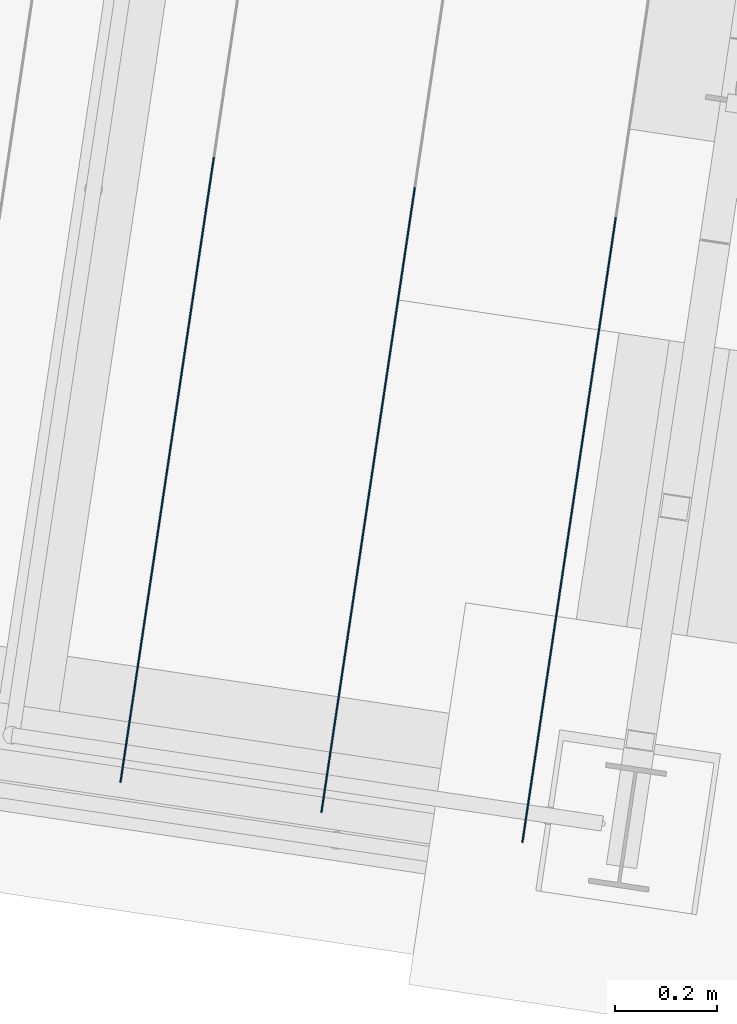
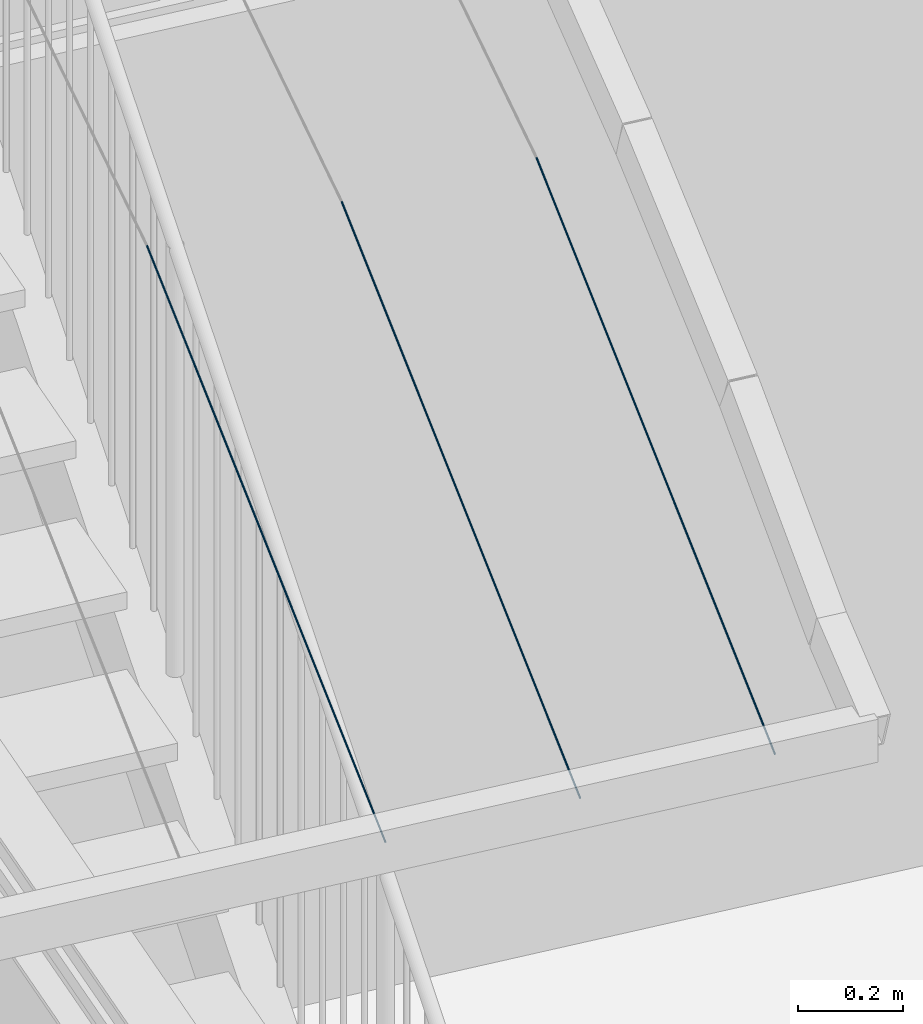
# One storey, part 18 of 142: 3 members, 1 element without a shape of its own.
"""IFC4 building model written with IfcOpenShell, lengths in metres."""

import ifcopenshell
import ifcopenshell.guid

model = None  # the IFC model being written
_history = None  # IfcOwnerHistory: only IFC2X3 demands one
_inside = {}  # id of a spatial element -> (the spatial element, [elements in it])
_under = {}  # id of a project, library or spatial element -> (it, [spatial elements below it])
_declared = {}  # id of a project -> (the project, [libraries it declares])
_typed = {}  # id of a type object -> (the type object, [elements of that type])
_made_of = {}  # id of a material, layer set ... -> (it, [elements and type objects made of it])


def new_model(schema):
    """Start an empty IFC model of exactly this schema.

    Asked for "IFC4X3", IfcOpenShell would pick the latest addendum, in which some entities
    have other attributes; the version numbers below select the first issue.
    IFC2X3 requires an IfcOwnerHistory on every rooted entity: one is made here for all.
    """
    global model, _history
    if schema == "IFC4X3":
        model = ifcopenshell.file(schema_version=(4, 3, 0, 0))
    else:
        model = ifcopenshell.file(schema=schema)
    _inside.clear()
    _under.clear()
    _declared.clear()
    _typed.clear()
    _made_of.clear()
    _history = None
    if model.schema == "IFC2X3":
        org = make("IfcOrganization", Name="unknown")
        user = make(
            "IfcPersonAndOrganization",
            ThePerson=make("IfcPerson", FamilyName="unknown"),
            TheOrganization=org,
        )
        app = make(
            "IfcApplication",
            ApplicationDeveloper=org,
            Version="unknown",
            ApplicationFullName="unknown",
            ApplicationIdentifier="unknown",
        )
        _history = make(
            "IfcOwnerHistory",
            OwningUser=user,
            OwningApplication=app,
            ChangeAction="ADDED",
            CreationDate=0,
        )
    return model


def make(cls, **values):
    """One entity of the class cls with the attributes given. An attribute that is None is left unset."""
    return model.create_entity(
        cls, **{name: value for name, value in values.items() if value is not None}
    )


def rooted(cls, **values):
    """An entity with a GlobalId (a new one), such as an element, a storey or a relation."""
    return make(cls, GlobalId=ifcopenshell.guid.new(), OwnerHistory=_history, **values)


def si_unit(unit_type, name, prefix=None):
    """IfcSIUnit, for example si_unit("LENGTHUNIT", "METRE", prefix="MILLI")."""
    return make("IfcSIUnit", UnitType=unit_type, Prefix=prefix, Name=name)


def assignment(units):
    """IfcUnitAssignment: the units of a project."""
    return None if units is None else make("IfcUnitAssignment", Units=units)


def point(xyz):
    """IfcCartesianPoint."""
    return None if xyz is None else make("IfcCartesianPoint", Coordinates=xyz)


def direction(xyz):
    """IfcDirection."""
    return None if xyz is None else make("IfcDirection", DirectionRatios=xyz)


def frame(location, z_axis=None, x_axis=None):
    """IfcAxis2Placement3D, a coordinate frame: its origin and axes. An axis left out is left unset."""
    return make(
        "IfcAxis2Placement3D",
        Location=point(location),
        Axis=direction(z_axis),
        RefDirection=direction(x_axis),
    )


def origin_with_axes():
    """The frame at (0, 0, 0) with the z axis (0, 0, 1) and the x axis (1, 0, 0) written out."""
    return frame((0.0, 0.0, 0.0), z_axis=(0.0, 0.0, 1.0), x_axis=(1.0, 0.0, 0.0))


def place(relative_to, where):
    """IfcLocalPlacement: puts the frame where relative to a parent placement (None: the world)."""
    return make(
        "IfcLocalPlacement", PlacementRelTo=relative_to, RelativePlacement=where
    )


def context(
    kind, dimensions, precision=None, world=None, true_north=None, identifier=None
):
    """IfcGeometricRepresentationContext, for example the 3D "Model" context."""
    return make(
        "IfcGeometricRepresentationContext",
        ContextIdentifier=identifier,
        ContextType=kind,
        CoordinateSpaceDimension=dimensions,
        Precision=precision,
        WorldCoordinateSystem=world,
        TrueNorth=true_north,
    )


def subcontext(parent, identifier, kind, view, scale=None):
    """IfcGeometricRepresentationSubContext, for example "Body" below "Model"."""
    return make(
        "IfcGeometricRepresentationSubContext",
        ContextIdentifier=identifier,
        ContextType=kind,
        ParentContext=parent,
        TargetScale=scale,
        TargetView=view,
    )


def project(units=None, contexts=None):
    """IfcProject with its units and contexts."""
    return rooted(
        "IfcProject",
        Name="project",
        RepresentationContexts=contexts,
        UnitsInContext=assignment(units),
    )


def spatial(cls, under=None, at=None, **own):
    """A site, building, storey or space (cls), placed at a placement, below another one or the project."""
    s = rooted(cls, ObjectPlacement=at, **own)
    if under is not None:
        _under.setdefault(under.id(), (under, []))[1].append(s)
    return s


def profile(cls, at=None, kind="AREA", **sizes):
    """A parametric profile (cls). Its sizes go by their IFC names, for example OverallWidth=200.0."""
    return make(cls, ProfileType=kind, Position=at, **sizes)


def circle(**sizes):
    """IfcCircleProfileDef."""
    return profile("IfcCircleProfileDef", **sizes)


def extrude(swept, where, along, depth):
    """IfcExtrudedAreaSolid: the profile swept, set in the frame where, extruded along a direction by depth."""
    return make(
        "IfcExtrudedAreaSolid",
        SweptArea=swept,
        Position=where,
        ExtrudedDirection=direction(along),
        Depth=depth,
    )


def shape(context_of_items, identifier, shape_type, items):
    """IfcShapeRepresentation: the items that make up one representation, for example the "Body"."""
    return make(
        "IfcShapeRepresentation",
        ContextOfItems=context_of_items,
        RepresentationIdentifier=identifier,
        RepresentationType=shape_type,
        Items=items,
    )


def material(Name=None, Category=None):
    """IfcMaterial."""
    return make("IfcMaterial", Name=Name, Category=Category)


def material_profile(
    of_material, cross_section, Name=None, Category=None, Priority=None
):
    """IfcMaterialProfile: a cross section and its material."""
    return make(
        "IfcMaterialProfile",
        Name=Name,
        Material=of_material,
        Profile=cross_section,
        Priority=Priority,
        Category=Category,
    )


def profile_set(profiles, Name=None, composite=None):
    """IfcMaterialProfileSet."""
    return make(
        "IfcMaterialProfileSet",
        Name=Name,
        MaterialProfiles=profiles,
        CompositeProfile=composite,
    )


def profile_usage(for_profile_set, cardinal=None, extent=None):
    """IfcMaterialProfileSetUsage: how a profile set lies along its element."""
    return make(
        "IfcMaterialProfileSetUsage",
        ForProfileSet=for_profile_set,
        CardinalPoint=cardinal,
        ReferenceExtent=extent,
    )


def made_of(thing, what):
    """Note that an element or type object is made of a material, layer set ...; save() writes the relation."""
    if what is not None:
        _made_of.setdefault(what.id(), (what, []))[1].append(thing)
    return thing


def type_object(cls, material=None, **own):
    """A type object (cls), such as IfcWallType, which elements share."""
    return made_of(rooted(cls, **own), material)


def element(
    cls,
    number,
    at=None,
    inside=None,
    cuts=None,
    type_object=None,
    material=None,
    context=None,
    identifier="Body",
    shape_type=None,
    held_by="IfcProductDefinitionShape",
    body=None,
    shapes=None,
    **own,
):
    """One element of the class cls, such as IfcWall. Its Tag is "e" and its number.

    at: its placement. inside: the storey or other place that contains it. cuts: it is an
    opening in that element (IfcRelVoidsElement). A single representation is given by context,
    identifier, shape_type and body (its items); several are given by shapes. held_by: the class
    of the entity that holds the representations. save() writes the other relations.
    """
    e = rooted(cls, Tag="e%d" % number, ObjectPlacement=at, **own)
    if body is not None:
        shapes = [shape(context, identifier, shape_type, body)]
    if shapes is not None:
        e.Representation = make(held_by, Representations=shapes)
    if inside is not None:
        _inside.setdefault(inside.id(), (inside, []))[1].append(e)
    if cuts is not None:
        rooted(
            "IfcRelVoidsElement", RelatingBuildingElement=cuts, RelatedOpeningElement=e
        )
    if type_object is not None:
        _typed.setdefault(type_object.id(), (type_object, []))[1].append(e)
    return made_of(e, material)


def aggregate(whole, parts):
    """IfcRelAggregates: a whole, such as a stair, and the parts it consists of."""
    return rooted("IfcRelAggregates", RelatingObject=whole, RelatedObjects=parts)


def save(model, path):
    """Write the relations noted so far, then the file.

    IfcRelAggregates (storeys below a building ...), IfcRelContainedInSpatialStructure (elements
    in a storey), IfcRelDefinesByType, IfcRelAssociatesMaterial and IfcRelDeclares: one each for
    every whole, place, type object, material and project.
    """
    for whole, parts in _under.values():
        aggregate(whole, parts)
    for where, things in _inside.values():
        rooted(
            "IfcRelContainedInSpatialStructure",
            RelatedElements=things,
            RelatingStructure=where,
        )
    for kind, things in _typed.values():
        rooted("IfcRelDefinesByType", RelatedObjects=things, RelatingType=kind)
    for what, things in _made_of.values():
        rooted("IfcRelAssociatesMaterial", RelatedObjects=things, RelatingMaterial=what)
    for by, libraries in _declared.values():
        rooted("IfcRelDeclares", RelatingContext=by, RelatedDefinitions=libraries)
    model.write(path)


model = new_model("IFC4")

# Units and contexts
model_context = context("Model", 3, precision=1e-05, world=origin_with_axes(), true_north=direction((0.0, 1.0)))
body_context = subcontext(model_context, "Body", "Model", "MODEL_VIEW")
ifc_project = project(units=[si_unit("AREAUNIT", "SQUARE_METRE"), si_unit("VOLUMEUNIT", "CUBIC_METRE"), si_unit("LENGTHUNIT", "METRE")], contexts=[model_context])

# Site, building, storey
site_placement = place(None, origin_with_axes())
site = spatial("IfcSite", under=ifc_project, at=site_placement, Name="Lares · Rua das Mercês · artigo 4771")
building_placement = place(site_placement, frame((15.0, 9.7, 14.65), z_axis=(0.0, 0.0, 1.0), x_axis=(0.989015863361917, -0.147809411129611, 0.0)))
building = spatial("IfcBuilding", under=site, at=building_placement, Name="Casa Sobreposta")
storey_placement = place(building_placement, origin_with_axes())
storey = spatial("IfcBuildingStorey", under=building, at=storey_placement, Name="00 · Habitação e estacionamento", Elevation=14.65)

# Assembly, members
assembly_placement = place(storey_placement, origin_with_axes())
assembly = element("IfcElementAssembly", 1, at=assembly_placement, inside=storey, Name="Pérgola · prolongamento da estufa 6 m", ObjectType="PERGOLA_GREENHOUSE_EXTENSION", PredefinedType="USERDEFINED")
ifc_material = material(Name="Aço galvanizado / Stahl verzinkt", Category="steel")
ifc_material_profile = material_profile(ifc_material, circle(Radius=0.002))
ifc_profile_set = profile_set([ifc_material_profile], Name="D0.004")
ifc_profile_usage_1 = profile_usage(ifc_profile_set)
member_type = type_object("IfcMemberType", Name="D0.004 / galvanized", PredefinedType="NOTDEFINED", material=ifc_profile_set)
member_1_placement = place(assembly_placement, frame((-0.999999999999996, -1.5, 6.23430000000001), z_axis=(0.0, 0.905876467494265, 0.423541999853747), x_axis=(1.0, 0.0, 0.0)))
member_1 = element("IfcMember", 2, at=member_1_placement, type_object=member_type, material=ifc_profile_usage_1, Name="Pérgola · fio para trepadeiras", context=body_context, shape_type="SweptSolid", body=[
    extrude(circle(Radius=0.002), origin_with_axes(), (0.0, 0.0, 1.0), 1.37271642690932),
])
ifc_profile_usage_2 = profile_usage(ifc_profile_set)
member_2_placement = place(assembly_placement, frame((-0.599999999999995, -1.5, 6.23430000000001), z_axis=(0.0, 0.905876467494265, 0.423541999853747), x_axis=(1.0, 0.0, 0.0)))
member_2 = element("IfcMember", 3, at=member_2_placement, type_object=member_type, material=ifc_profile_usage_2, Name="Pérgola · fio para trepadeiras", context=body_context, shape_type="SweptSolid", body=[
    extrude(circle(Radius=0.002), origin_with_axes(), (0.0, 0.0, 1.0), 1.37271642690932),
])
ifc_profile_usage_3 = profile_usage(ifc_profile_set)
member_3_placement = place(assembly_placement, frame((-0.199999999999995, -1.5, 6.23430000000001), z_axis=(0.0, 0.905876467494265, 0.423541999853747), x_axis=(1.0, 0.0, 0.0)))
member_3 = element("IfcMember", 4, at=member_3_placement, type_object=member_type, material=ifc_profile_usage_3, Name="Pérgola · fio para trepadeiras", context=body_context, shape_type="SweptSolid", body=[
    extrude(circle(Radius=0.002), origin_with_axes(), (0.0, 0.0, 1.0), 1.37271642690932),
])
aggregate(assembly, [member_1, member_2, member_3])

save(model, "model.ifc")
